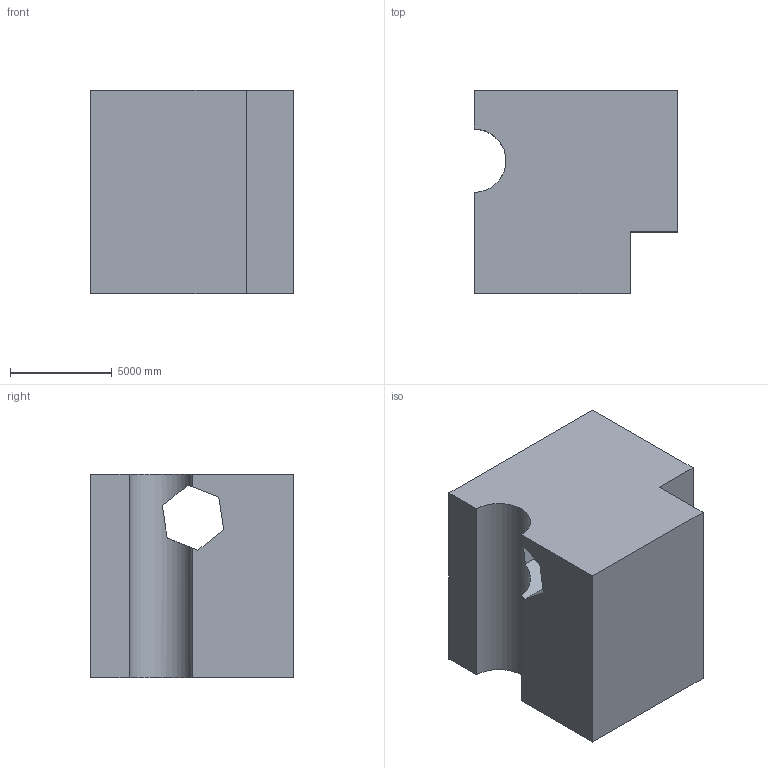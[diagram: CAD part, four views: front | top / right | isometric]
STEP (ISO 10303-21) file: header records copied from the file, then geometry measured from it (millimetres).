
FILE_DESCRIPTION (( 'STEP AP203' ), '1' );
FILE_NAME ('56.STEP', '2022-08-31T11:19:21', ( 'user' ), ( '' ), 'SwSTEP 2.0', 'SolidWorks 2021', '' );
FILE_SCHEMA (( 'CONFIG_CONTROL_DESIGN' ));
Length unit declared in the file: centimetre
Products named in the file (1): 56
Bounding box: 10000 x 10000 x 10000 mm (x, y, z)
Volume: 826982352691.6 mm3; surface area: 670814623.6 mm2
Topology: 1 solids, 1 shells, 16 faces, 45 edges, 30 vertices
Faces by surface type: plane 15, cylinder 1
Entity records: 592 total; most frequent: CARTESIAN_POINT 104, ORIENTED_EDGE 90, DIRECTION 77, EDGE_CURVE 45, LINE 39, VECTOR 39, VERTEX_POINT 30, AXIS2_PLACEMENT_3D 19
